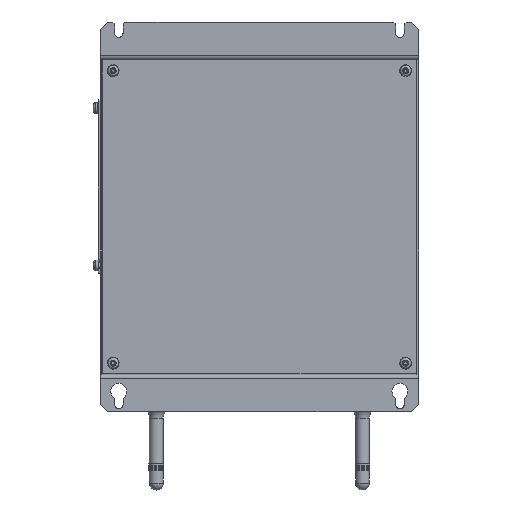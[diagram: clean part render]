
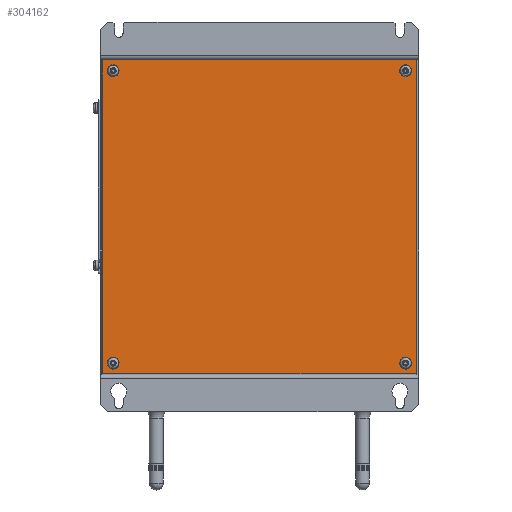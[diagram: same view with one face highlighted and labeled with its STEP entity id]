
A CAD part, front view. The second image highlights one B-rep face of the part: STEP entity #304162.
In plain terms, the highlighted planar face has unit normal (0, -1, 0).
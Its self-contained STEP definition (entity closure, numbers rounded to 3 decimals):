
#888 = VERTEX_POINT ( 'NONE', #322793 ) ;
#28607 = ORIENTED_EDGE ( 'NONE', *, *, #79865, .F. ) ;
#29632 = CARTESIAN_POINT ( 'NONE',  ( 87.18, -27.632, -90.298 ) ) ;
#51042 = VECTOR ( 'NONE', #209989, 1000. ) ;
#55404 = ORIENTED_EDGE ( 'NONE', *, *, #237002, .F. ) ;
#55443 = EDGE_LOOP ( 'NONE', ( #190009, #268631, #194717, #55404 ) ) ;
#60798 = VERTEX_POINT ( 'NONE', #245179 ) ;
#62357 = DIRECTION ( 'NONE',  ( 0., 0., -1. ) ) ;
#63293 = LINE ( 'NONE', #241859, #303522 ) ;
#66740 = DIRECTION ( 'NONE',  ( 0., 0., -1. ) ) ;
#71733 = AXIS2_PLACEMENT_3D ( 'NONE', #155022, #80178, #262601 ) ;
#73844 = CIRCLE ( 'NONE', #71733, 1.75 ) ;
#75362 = CARTESIAN_POINT ( 'NONE',  ( -74.57, -27.632, -94.298 ) ) ;
#79865 = EDGE_CURVE ( 'NONE', #113668, #113668, #73844, .T. ) ;
#80178 = DIRECTION ( 'NONE',  ( 0., -1., 0. ) ) ;
#81957 = CARTESIAN_POINT ( 'NONE',  ( 87.18, -27.632, 65.702 ) ) ;
#86936 = CARTESIAN_POINT ( 'NONE',  ( -74.57, -27.632, -94.298 ) ) ;
#88691 = VERTEX_POINT ( 'NONE', #152443 ) ;
#95721 = VERTEX_POINT ( 'NONE', #75362 ) ;
#98421 = DIRECTION ( 'NONE',  ( 0., -1., 0. ) ) ;
#99238 = FACE_BOUND ( 'NONE', #99781, .T. ) ;
#99781 = EDGE_LOOP ( 'NONE', ( #186130 ) ) ;
#102262 = DIRECTION ( 'NONE',  ( 0., 0., -1. ) ) ;
#109446 = EDGE_CURVE ( 'NONE', #209121, #60798, #236685, .T. ) ;
#113668 = VERTEX_POINT ( 'NONE', #29632 ) ;
#115230 = FACE_BOUND ( 'NONE', #159675, .T. ) ;
#116965 = CARTESIAN_POINT ( 'NONE',  ( 87.18, -27.632, 67.452 ) ) ;
#119809 = CIRCLE ( 'NONE', #177865, 1.75 ) ;
#120806 = DIRECTION ( 'NONE',  ( 0., 0., -1. ) ) ;
#121823 = CARTESIAN_POINT ( 'NONE',  ( -74.57, -27.632, 73.202 ) ) ;
#125171 = DIRECTION ( 'NONE',  ( 1., 0., 0. ) ) ;
#125820 = AXIS2_PLACEMENT_3D ( 'NONE', #171775, #172858, #66740 ) ;
#131712 = EDGE_CURVE ( 'NONE', #60798, #95721, #271427, .T. ) ;
#135646 = ORIENTED_EDGE ( 'NONE', *, *, #306758, .F. ) ;
#137394 = DIRECTION ( 'NONE',  ( 0., -1., 0. ) ) ;
#142640 = DIRECTION ( 'NONE',  ( 0., -1., 0. ) ) ;
#144428 = VECTOR ( 'NONE', #102262, 1000. ) ;
#152443 = CARTESIAN_POINT ( 'NONE',  ( -68.82, -27.632, -90.298 ) ) ;
#155022 = CARTESIAN_POINT ( 'NONE',  ( 87.18, -27.632, -88.548 ) ) ;
#158121 = EDGE_CURVE ( 'NONE', #888, #888, #211038, .T. ) ;
#159675 = EDGE_LOOP ( 'NONE', ( #28607 ) ) ;
#163030 = CARTESIAN_POINT ( 'NONE',  ( -68.82, -27.632, 67.452 ) ) ;
#171775 = CARTESIAN_POINT ( 'NONE',  ( -74.57, -27.632, 73.202 ) ) ;
#172858 = DIRECTION ( 'NONE',  ( 0., -1., 0. ) ) ;
#177102 = CARTESIAN_POINT ( 'NONE',  ( 92.93, -27.632, 73.202 ) ) ;
#177865 = AXIS2_PLACEMENT_3D ( 'NONE', #251814, #98421, #120806 ) ;
#183263 = FACE_BOUND ( 'NONE', #218412, .T. ) ;
#186130 = ORIENTED_EDGE ( 'NONE', *, *, #158121, .F. ) ;
#190009 = ORIENTED_EDGE ( 'NONE', *, *, #288078, .F. ) ;
#194717 = ORIENTED_EDGE ( 'NONE', *, *, #109446, .F. ) ;
#205214 = ORIENTED_EDGE ( 'NONE', *, *, #238923, .F. ) ;
#209121 = VERTEX_POINT ( 'NONE', #312250 ) ;
#209989 = DIRECTION ( 'NONE',  ( -1., 0., 0. ) ) ;
#211038 = CIRCLE ( 'NONE', #295982, 1.75 ) ;
#218412 = EDGE_LOOP ( 'NONE', ( #135646 ) ) ;
#223275 = PLANE ( 'NONE',  #125820 ) ;
#233863 = CIRCLE ( 'NONE', #328235, 1.75 ) ;
#236119 = EDGE_LOOP ( 'NONE', ( #205214 ) ) ;
#236685 = LINE ( 'NONE', #177102, #144428 ) ;
#237002 = EDGE_CURVE ( 'NONE', #270837, #209121, #314007, .T. ) ;
#238923 = EDGE_CURVE ( 'NONE', #88691, #88691, #119809, .T. ) ;
#241859 = CARTESIAN_POINT ( 'NONE',  ( -74.57, -27.632, 73.202 ) ) ;
#245179 = CARTESIAN_POINT ( 'NONE',  ( 92.93, -27.632, -94.298 ) ) ;
#247328 = FACE_BOUND ( 'NONE', #236119, .T. ) ;
#250173 = VECTOR ( 'NONE', #125171, 1000. ) ;
#251814 = CARTESIAN_POINT ( 'NONE',  ( -68.82, -27.632, -88.548 ) ) ;
#262601 = DIRECTION ( 'NONE',  ( 0., 0., -1. ) ) ;
#264354 = DIRECTION ( 'NONE',  ( 0., 0., 1. ) ) ;
#267042 = DIRECTION ( 'NONE',  ( 0., 0., -1. ) ) ;
#268631 = ORIENTED_EDGE ( 'NONE', *, *, #131712, .F. ) ;
#270837 = VERTEX_POINT ( 'NONE', #121823 ) ;
#271427 = LINE ( 'NONE', #86936, #51042 ) ;
#273082 = CARTESIAN_POINT ( 'NONE',  ( -74.57, -27.632, 73.202 ) ) ;
#288078 = EDGE_CURVE ( 'NONE', #95721, #270837, #63293, .T. ) ;
#295982 = AXIS2_PLACEMENT_3D ( 'NONE', #163030, #137394, #62357 ) ;
#303522 = VECTOR ( 'NONE', #264354, 1000. ) ;
#304162 = ADVANCED_FACE ( 'NONE', ( #99238, #183263, #115230, #247328, #311523 ), #223275, .T. ) ;
#306758 = EDGE_CURVE ( 'NONE', #307654, #307654, #233863, .T. ) ;
#307654 = VERTEX_POINT ( 'NONE', #81957 ) ;
#311523 = FACE_OUTER_BOUND ( 'NONE', #55443, .T. ) ;
#312250 = CARTESIAN_POINT ( 'NONE',  ( 92.93, -27.632, 73.202 ) ) ;
#314007 = LINE ( 'NONE', #273082, #250173 ) ;
#322793 = CARTESIAN_POINT ( 'NONE',  ( -68.82, -27.632, 65.702 ) ) ;
#328235 = AXIS2_PLACEMENT_3D ( 'NONE', #116965, #142640, #267042 ) ;
